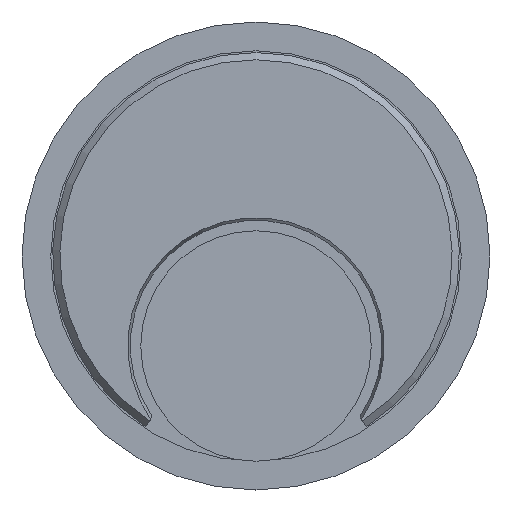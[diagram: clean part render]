
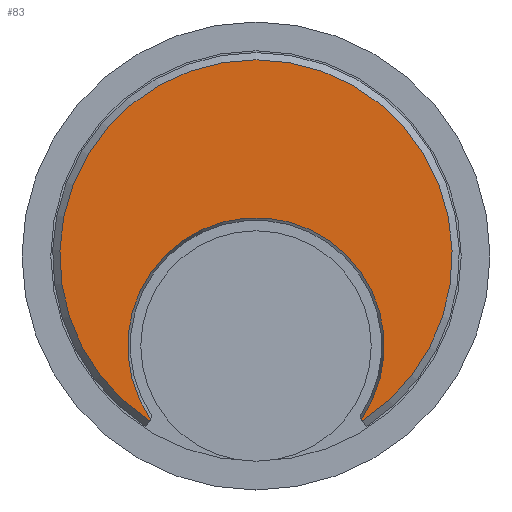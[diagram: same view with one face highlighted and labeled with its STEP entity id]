
A CAD part, left-side view. The second image highlights one B-rep face of the part: STEP entity #83.
In plain terms, the highlighted planar face has unit normal (-1, 0, 0).
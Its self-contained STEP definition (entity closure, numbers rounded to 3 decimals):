
#83 = ADVANCED_FACE( '', ( #112 ), #113, .F. );
#112 = FACE_OUTER_BOUND( '', #155, .T. );
#113 = PLANE( '', #156 );
#155 = EDGE_LOOP( '', ( #233, #234, #235, #236 ) );
#156 = AXIS2_PLACEMENT_3D( '', #237, #238, #239 );
#233 = ORIENTED_EDGE( '', *, *, #303, .T. );
#234 = ORIENTED_EDGE( '', *, *, #298, .T. );
#235 = ORIENTED_EDGE( '', *, *, #304, .T. );
#236 = ORIENTED_EDGE( '', *, *, #302, .T. );
#237 = CARTESIAN_POINT( '', ( -49.95, -2.825, 0. ) );
#238 = DIRECTION( '', ( 1., 0., 0. ) );
#239 = DIRECTION( '', ( 0., 1., 0. ) );
#298 = EDGE_CURVE( '', #338, #336, #339, .T. );
#302 = EDGE_CURVE( '', #341, #343, #345, .F. );
#303 = EDGE_CURVE( '', #343, #338, #346, .T. );
#304 = EDGE_CURVE( '', #336, #341, #347, .T. );
#336 = VERTEX_POINT( '', #395 );
#338 = VERTEX_POINT( '', #400 );
#339 = CIRCLE( '', #401, 1.782 );
#341 = VERTEX_POINT( '', #406 );
#343 = VERTEX_POINT( '', #411 );
#345 = CIRCLE( '', #416, 2.725 );
#346 = LINE( '', #417, #418 );
#347 = LINE( '', #419, #420 );
#395 = CARTESIAN_POINT( '', ( -49.95, -1.463, -2.268 ) );
#400 = CARTESIAN_POINT( '', ( -49.95, 1.463, -2.268 ) );
#401 = AXIS2_PLACEMENT_3D( '', #456, #457, #458 );
#406 = CARTESIAN_POINT( '', ( -49.95, -1.478, -2.29 ) );
#411 = CARTESIAN_POINT( '', ( -49.95, 1.478, -2.29 ) );
#416 = AXIS2_PLACEMENT_3D( '', #459, #460, #461 );
#417 = CARTESIAN_POINT( '', ( -49.95, 1.45, -2.25 ) );
#418 = VECTOR( '', #462, 1000. );
#419 = CARTESIAN_POINT( '', ( -49.95, -1.45, -2.25 ) );
#420 = VECTOR( '', #463, 1000. );
#456 = CARTESIAN_POINT( '', ( -49.95, 0., -1.25 ) );
#457 = DIRECTION( '', ( 1., 0., 0. ) );
#458 = DIRECTION( '', ( 0., 1., 0. ) );
#459 = CARTESIAN_POINT( '', ( -49.95, 0., 0. ) );
#460 = DIRECTION( '', ( 1., 0., 0. ) );
#461 = DIRECTION( '', ( 0., 1., 0. ) );
#462 = DIRECTION( '', ( 0., -0.574, 0.819 ) );
#463 = DIRECTION( '', ( 0., -0.574, -0.819 ) );
